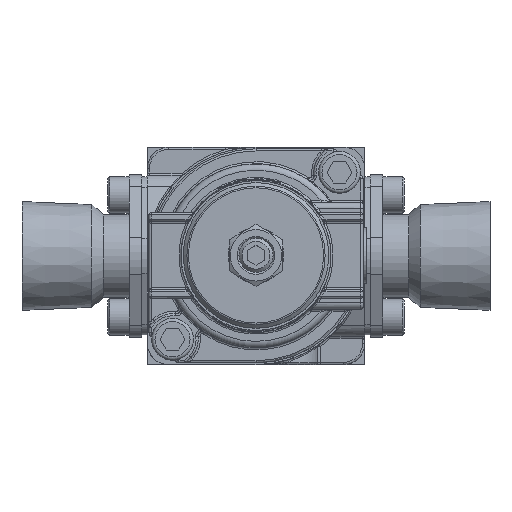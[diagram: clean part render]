
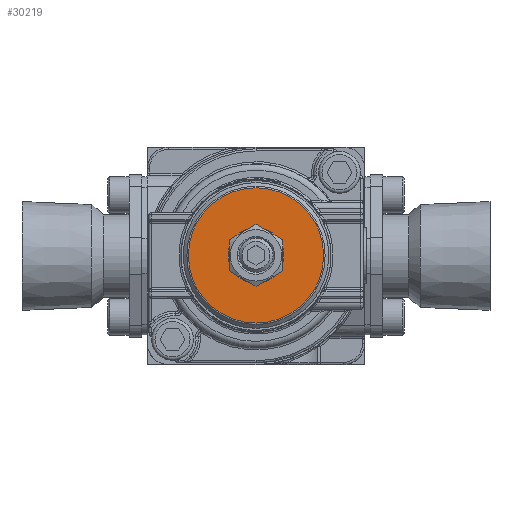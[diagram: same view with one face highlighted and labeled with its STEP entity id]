
A CAD part, top view. The second image highlights one B-rep face of the part: STEP entity #30219.
In plain terms, the highlighted planar face has unit normal (0, 0, 1).
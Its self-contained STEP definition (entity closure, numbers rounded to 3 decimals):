
#1869=CIRCLE('',#31684,6.5);
#1872=CIRCLE('',#31692,15.793);
#1873=CIRCLE('',#31693,5.);
#3106=ORIENTED_EDGE('',*,*,#9219,.T.);
#3107=ORIENTED_EDGE('',*,*,#9213,.F.);
#3108=ORIENTED_EDGE('',*,*,#9209,.T.);
#3109=ORIENTED_EDGE('',*,*,#9216,.F.);
#3110=ORIENTED_EDGE('',*,*,#9220,.F.);
#9209=EDGE_CURVE('',#12273,#12272,#1869,.T.);
#9213=EDGE_CURVE('',#12273,#12264,#14247,.T.);
#9216=EDGE_CURVE('',#12266,#12272,#14250,.T.);
#9219=EDGE_CURVE('',#12274,#12274,#1872,.T.);
#9220=EDGE_CURVE('',#12264,#12266,#1873,.T.);
#12264=VERTEX_POINT('',#39891);
#12266=VERTEX_POINT('',#39894);
#12272=VERTEX_POINT('',#39909);
#12273=VERTEX_POINT('',#39911);
#12274=VERTEX_POINT('',#39927);
#14247=LINE('',#39917,#15307);
#14250=LINE('',#39921,#15310);
#15307=VECTOR('',#34093,1000.);
#15310=VECTOR('',#34098,1000.);
#16365=EDGE_LOOP('',(#3106));
#16366=EDGE_LOOP('',(#3107,#3108,#3109,#3110));
#18148=FACE_BOUND('',#16365,.T.);
#18149=FACE_BOUND('',#16366,.T.);
#19939=PLANE('',#31691);
#30219=ADVANCED_FACE('',(#18148,#18149),#19939,.T.);
#31684=AXIS2_PLACEMENT_3D('',#39910,#34084,#34085);
#31691=AXIS2_PLACEMENT_3D('',#39925,#34105,#34106);
#31692=AXIS2_PLACEMENT_3D('',#39926,#34107,#34108);
#31693=AXIS2_PLACEMENT_3D('',#39928,#34109,#34110);
#34084=DIRECTION('',(0.,0.,-1.));
#34085=DIRECTION('',(0.,1.,0.));
#34093=DIRECTION('',(0.,-1.,0.));
#34098=DIRECTION('',(0.,1.,0.));
#34105=DIRECTION('',(0.,0.,1.));
#34106=DIRECTION('',(1.,0.,0.));
#34107=DIRECTION('',(0.,0.,1.));
#34108=DIRECTION('',(0.,-1.,0.));
#34109=DIRECTION('',(0.,0.,1.));
#34110=DIRECTION('',(0.,-1.,0.));
#39891=CARTESIAN_POINT('',(0.75,4.943,70.95));
#39894=CARTESIAN_POINT('',(-0.75,4.943,70.95));
#39909=CARTESIAN_POINT('',(-0.75,6.457,70.95));
#39910=CARTESIAN_POINT('',(0.,0.,70.95));
#39911=CARTESIAN_POINT('',(0.75,6.457,70.95));
#39917=CARTESIAN_POINT('',(0.75,0.,70.95));
#39921=CARTESIAN_POINT('',(-0.75,0.,70.95));
#39925=CARTESIAN_POINT('',(17.5,0.,70.95));
#39926=CARTESIAN_POINT('',(0.,0.,70.95));
#39927=CARTESIAN_POINT('',(0.,-15.793,70.95));
#39928=CARTESIAN_POINT('',(0.,0.,70.95));
